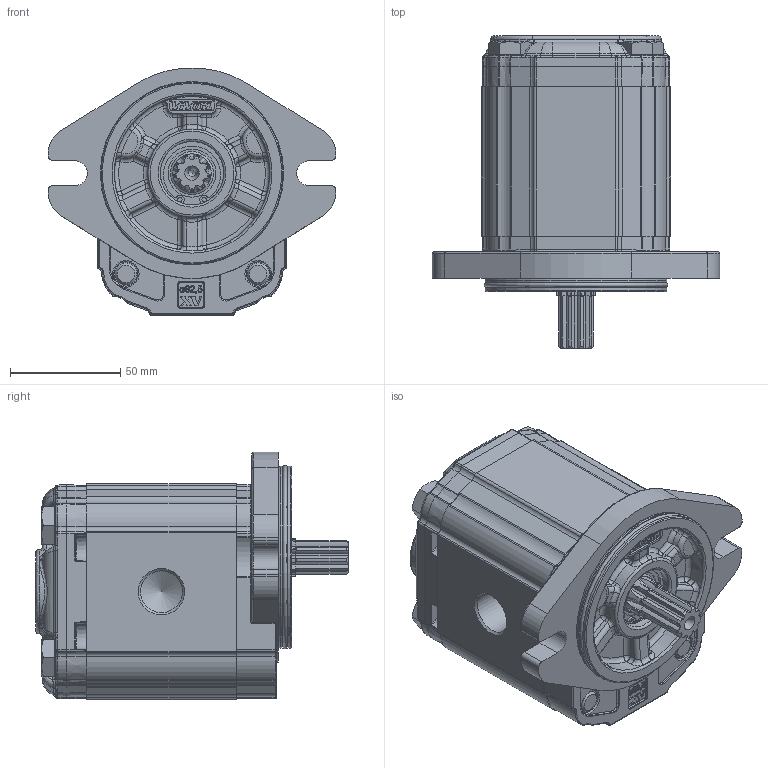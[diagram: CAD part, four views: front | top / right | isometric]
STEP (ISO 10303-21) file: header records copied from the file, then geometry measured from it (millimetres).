
FILE_DESCRIPTION(/* description */ ('Unknown'),/* implementation_level */ '2;1');
FILE_NAME(/* name */ 'X2P5151ICBA',/* time_stamp */ '2020-09-21T11:43:31+02:00',/* author */ ('Unknown'),/* organization */ ('Unknown'),/* preprocessor_version */ 'ST-DEVELOPER v16.7',/* originating_system */ 'DEX',/* authorisation */ $);
FILE_SCHEMA (('AUTOMOTIVE_DESIGN {1 0 10303 214 3 1 1}'));
Products named in the file (5): X2P5151ICBA; X2P51; 2I; X2CBH68; XP219-A
Assembly tree (4 placements, depth 2):
  X2P5151ICBA
    X2P51
    2I
    X2CBH68
    XP219-A
Bounding box: 130.38 x 141.7 x 112.3 mm (x, y, z)
Volume: 832474 mm3; surface area: 109840 mm2
Topology: 4 solids, 5 shells, 2195 faces, 5407 edges, 3280 vertices
Faces by surface type: cylinder 649, plane 589, bspline 570, torus 246, cone 103, sphere 38
Full cylindrical faces by diameter (mm): 2 x2, 10 x4, 10.5 x4, 11 x2, 16 x4, 17.42 x1, 17.48 x2, 18.724 x1, 19 x1, 20.595 x1, 21.741 x1, 24.117 x1, 25.834 x1, 28.56 x1, 28.57 x1, 28.8 x1, 30.4 x1, 79.6 x2, 82.5 x2
Entity records: 100888 total; most frequent: CARTESIAN_POINT 39076, ORIENTED_EDGE 10468, DIRECTION 8739, EDGE_CURVE 5234, AXIS2_PLACEMENT_3D 3323, VERTEX_POINT 3228, FACE_BOUND 2376, EDGE_LOOP 2372
